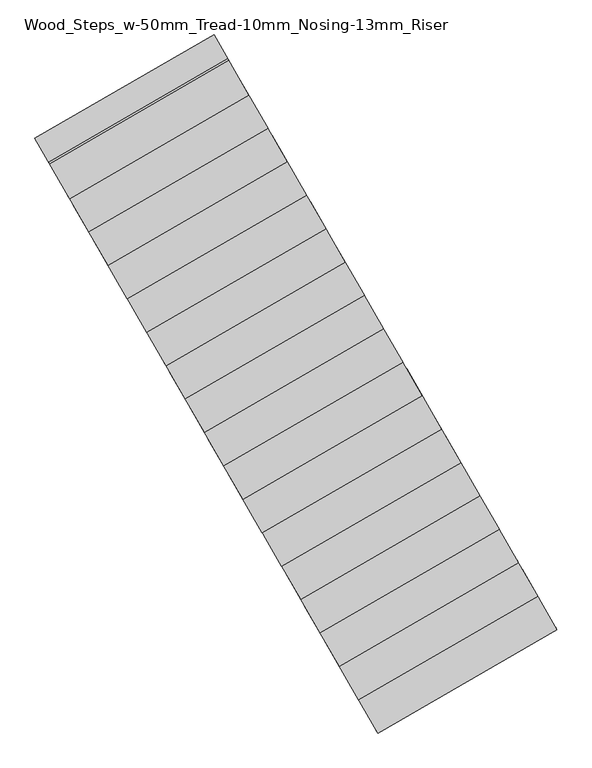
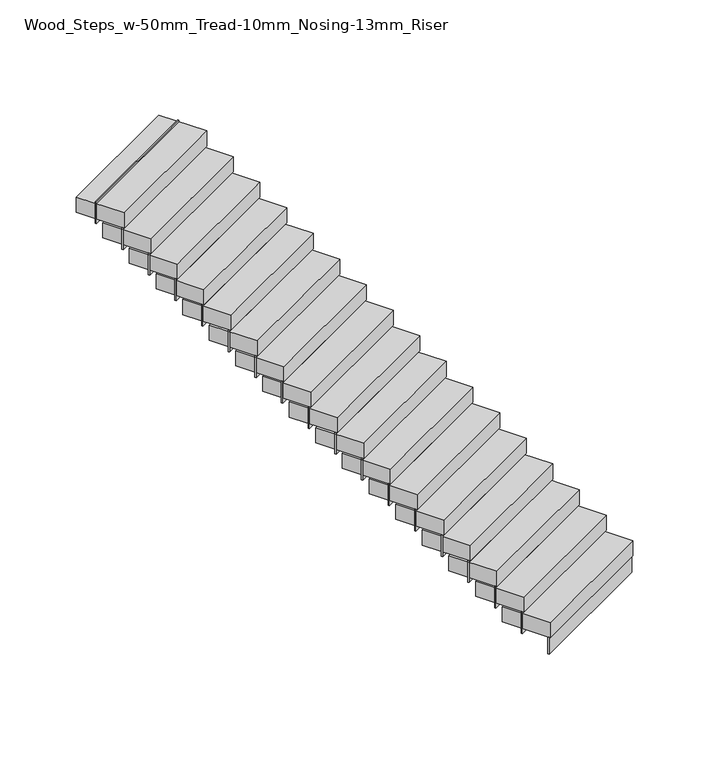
"""IFC4 building model written with IfcOpenShell, lengths in millimetres: stair flight geometry, Wood_Steps_w-50mm_Tread-10mm_Nosing-13mm_Riser."""

from ifc_helpers import new_model, si_unit, frame, origin, place, context, project, spatial, polyline, outline, extrude, source, transform, mapped, element, save


def wood_steps_w_50mm_tread_10mm_nosing_13mm_riser_c3aca261(model_context):
    return source(origin(), model_context, "Body", "SweptSolid", [
        extrude(outline(polyline([(5067.8823551, 16358.0948078), (5074.1323551, 16347.2694902), (3912.1324618, 15676.388539), (3905.8824618, 15687.2138566), (5067.8823551, 16358.0948078)])), frame((0.0, 0.0, -3000.0), z_axis=(0.0, 0.0, 1.0), x_axis=(1.0, 0.0, 0.0)), (0.0, 0.0, 1.0), 166.6666667),
        extrude(outline(polyline([(4942.8823551, 16574.6011587), (4949.1323551, 16563.7758412), (3787.1324618, 15892.89489), (3780.8824618, 15903.7202075), (4942.8823551, 16574.6011587)])), frame((0.0, 0.0, -2883.3333333), z_axis=(0.0, 0.0, 1.0), x_axis=(1.0, 0.0, 0.0)), (0.0, 0.0, 1.0), 216.6666667),
        extrude(outline(polyline([(4817.8823551, 16791.1075097), (4824.1323551, 16780.2821921), (3662.1324618, 16109.4012409), (3655.8824618, 16120.2265585), (4817.8823551, 16791.1075097)])), frame((0.0, 0.0, -2716.6666667), z_axis=(0.0, 0.0, 1.0), x_axis=(1.0, 0.0, 0.0)), (0.0, 0.0, 1.0), 216.6666667),
        extrude(outline(polyline([(4692.8823551, 17007.6138606), (4699.1323551, 16996.7885431), (3537.1324618, 16325.9075919), (3530.8824618, 16336.7329094), (4692.8823551, 17007.6138606)])), frame((0.0, 0.0, -2550.0), z_axis=(0.0, 0.0, 1.0), x_axis=(1.0, 0.0, 0.0)), (0.0, 0.0, 1.0), 216.6666667),
        extrude(outline(polyline([(4567.8823551, 17224.1202115), (4574.1323551, 17213.294894), (3412.1324618, 16542.4139428), (3405.8824618, 16553.2392604), (4567.8823551, 17224.1202115)])), frame((0.0, 0.0, -2383.3333333), z_axis=(0.0, 0.0, 1.0), x_axis=(1.0, 0.0, 0.0)), (0.0, 0.0, 1.0), 216.6666667),
        extrude(outline(polyline([(4442.8823551, 17440.6265625), (4449.1323551, 17429.8012449), (3287.1324618, 16758.9202938), (3280.8824618, 16769.7456113), (4442.8823551, 17440.6265625)])), frame((0.0, 0.0, -2216.6666667), z_axis=(0.0, 0.0, 1.0), x_axis=(1.0, 0.0, 0.0)), (0.0, 0.0, 1.0), 216.6666667),
        extrude(outline(polyline([(4317.8823551, 17657.1329134), (4324.1323551, 17646.3075959), (3162.1324618, 16975.4266447), (3155.8824618, 16986.2519623), (4317.8823551, 17657.1329134)])), frame((0.0, 0.0, -2050.0), z_axis=(0.0, 0.0, 1.0), x_axis=(1.0, 0.0, 0.0)), (0.0, 0.0, 1.0), 216.6666667),
        extrude(outline(polyline([(4192.8823551, 17873.6392644), (4199.1323551, 17862.8139468), (3037.1324618, 17191.9329957), (3030.8824618, 17202.7583132), (4192.8823551, 17873.6392644)])), frame((0.0, 0.0, -1883.3333333), z_axis=(0.0, 0.0, 1.0), x_axis=(1.0, 0.0, 0.0)), (0.0, 0.0, 1.0), 216.6666667),
        extrude(outline(polyline([(4067.8823551, 18090.1456153), (4074.1323551, 18079.3202978), (2912.1324618, 17408.4393466), (2905.8824618, 17419.2646642), (4067.8823551, 18090.1456153)])), frame((0.0, 0.0, -1716.6666667), z_axis=(0.0, 0.0, 1.0), x_axis=(1.0, 0.0, 0.0)), (0.0, 0.0, 1.0), 216.6666667),
        extrude(outline(polyline([(3942.8823551, 18306.6519663), (3949.1323551, 18295.8266487), (2787.1324618, 17624.9456976), (2780.8824618, 17635.7710151), (3942.8823551, 18306.6519663)])), frame((0.0, 0.0, -1550.0), z_axis=(0.0, 0.0, 1.0), x_axis=(1.0, 0.0, 0.0)), (0.0, 0.0, 1.0), 216.6666667),
        extrude(outline(polyline([(3817.8823551, 18523.1583172), (3824.1323551, 18512.3329997), (2662.1324618, 17841.4520485), (2655.8824618, 17852.2773661), (3817.8823551, 18523.1583172)])), frame((0.0, 0.0, -1383.3333333), z_axis=(0.0, 0.0, 1.0), x_axis=(1.0, 0.0, 0.0)), (0.0, 0.0, 1.0), 216.6666667),
        extrude(outline(polyline([(3692.8823551, 18739.6646682), (3699.1323551, 18728.8393506), (2537.1324618, 18057.9583995), (2530.8824618, 18068.783717), (3692.8823551, 18739.6646682)])), frame((0.0, 0.0, -1216.6666667), z_axis=(0.0, 0.0, 1.0), x_axis=(1.0, 0.0, 0.0)), (0.0, 0.0, 1.0), 216.6666667),
        extrude(outline(polyline([(3567.8823551, 18956.1710191), (3574.1323551, 18945.3457016), (2412.1324618, 18274.4647504), (2405.8824618, 18285.290068), (3567.8823551, 18956.1710191)])), frame((0.0, 0.0, -1050.0), z_axis=(0.0, 0.0, 1.0), x_axis=(1.0, 0.0, 0.0)), (0.0, 0.0, 1.0), 216.6666667),
        extrude(outline(polyline([(3442.8823551, 19172.6773701), (3449.1323551, 19161.8520525), (2287.1324618, 18490.9711013), (2280.8824618, 18501.7964189), (3442.8823551, 19172.6773701)])), frame((0.0, 0.0, -883.3333333), z_axis=(0.0, 0.0, 1.0), x_axis=(1.0, 0.0, 0.0)), (0.0, 0.0, 1.0), 216.6666667),
        extrude(outline(polyline([(3317.8823551, 19389.183721), (3324.1323551, 19378.3584035), (2162.1324618, 18707.4774523), (2155.8824618, 18718.3027698), (3317.8823551, 19389.183721)])), frame((0.0, 0.0, -716.6666667), z_axis=(0.0, 0.0, 1.0), x_axis=(1.0, 0.0, 0.0)), (0.0, 0.0, 1.0), 216.6666667),
        extrude(outline(polyline([(3192.8823551, 19605.690072), (3199.1323551, 19594.8647544), (2037.1324618, 18923.9838032), (2030.8824618, 18934.8091208), (3192.8823551, 19605.690072)])), frame((0.0, 0.0, -550.0), z_axis=(0.0, 0.0, 1.0), x_axis=(1.0, 0.0, 0.0)), (0.0, 0.0, 1.0), 216.6666667),
        extrude(outline(polyline([(3067.8823551, 19822.1964229), (3074.1323551, 19811.3711054), (1912.1324618, 19140.4901542), (1905.8824618, 19151.3154717), (3067.8823551, 19822.1964229)])), frame((0.0, 0.0, -383.3333333), z_axis=(0.0, 0.0, 1.0), x_axis=(1.0, 0.0, 0.0)), (0.0, 0.0, 1.0), 216.6666667),
        extrude(outline(polyline([(2942.8823551, 20038.7027738), (2949.1323551, 20027.8774563), (1787.1324618, 19356.9965051), (1780.8824618, 19367.8218227), (2942.8823551, 20038.7027738)])), frame((0.0, 0.0, -216.6666667), z_axis=(0.0, 0.0, 1.0), x_axis=(1.0, 0.0, 0.0)), (0.0, 0.0, 1.0), 216.6666667),
        extrude(outline(polyline([(4854.1323551, 16728.3206679), (5079.1323551, 16338.6092362), (3917.1324618, 15667.728285), (3692.1324618, 16057.4397167), (4854.1323551, 16728.3206679)])), frame((0.0, 0.0, -2833.3333333), z_axis=(0.0, 0.0, 1.0), x_axis=(1.0, 0.0, 0.0)), (0.0, 0.0, 1.0), 150.0),
        extrude(outline(polyline([(4729.1323551, 16944.8270188), (4954.1323551, 16555.1155871), (3792.1324618, 15884.234636), (3567.1324618, 16273.9460677), (4729.1323551, 16944.8270188)])), frame((0.0, 0.0, -2666.6666667), z_axis=(0.0, 0.0, 1.0), x_axis=(1.0, 0.0, 0.0)), (0.0, 0.0, 1.0), 150.0),
        extrude(outline(polyline([(4604.1323551, 17161.3333698), (4829.1323551, 16771.6219381), (3667.1324618, 16100.7409869), (3442.1324618, 16490.4524186), (4604.1323551, 17161.3333698)])), frame((0.0, 0.0, -2500.0), z_axis=(0.0, 0.0, 1.0), x_axis=(1.0, 0.0, 0.0)), (0.0, 0.0, 1.0), 150.0),
        extrude(outline(polyline([(4479.1323551, 17377.8397207), (4704.1323551, 16988.128289), (3542.1324618, 16317.2473379), (3317.1324618, 16706.9587696), (4479.1323551, 17377.8397207)])), frame((0.0, 0.0, -2333.3333333), z_axis=(0.0, 0.0, 1.0), x_axis=(1.0, 0.0, 0.0)), (0.0, 0.0, 1.0), 150.0),
        extrude(outline(polyline([(4354.1323551, 17594.3460717), (4579.1323551, 17204.63464), (3417.1324618, 16533.7536888), (3192.1324618, 16923.4651205), (4354.1323551, 17594.3460717)])), frame((0.0, 0.0, -2166.6666667), z_axis=(0.0, 0.0, 1.0), x_axis=(1.0, 0.0, 0.0)), (0.0, 0.0, 1.0), 150.0),
        extrude(outline(polyline([(4229.1323551, 17810.8524226), (4454.1323551, 17421.1409909), (3292.1324618, 16750.2600397), (3067.1324618, 17139.9714714), (4229.1323551, 17810.8524226)])), frame((0.0, 0.0, -2000.0), z_axis=(0.0, 0.0, 1.0), x_axis=(1.0, 0.0, 0.0)), (0.0, 0.0, 1.0), 150.0),
        extrude(outline(polyline([(4104.1323551, 18027.3587736), (4329.1323551, 17637.6473419), (3167.1324618, 16966.7663907), (2942.1324618, 17356.4778224), (4104.1323551, 18027.3587736)])), frame((0.0, 0.0, -1833.3333333), z_axis=(0.0, 0.0, 1.0), x_axis=(1.0, 0.0, 0.0)), (0.0, 0.0, 1.0), 150.0),
        extrude(outline(polyline([(3979.1323551, 18243.8651245), (4204.1323551, 17854.1536928), (3042.1324618, 17183.2727416), (2817.1324618, 17572.9841733), (3979.1323551, 18243.8651245)])), frame((0.0, 0.0, -1666.6666667), z_axis=(0.0, 0.0, 1.0), x_axis=(1.0, 0.0, 0.0)), (0.0, 0.0, 1.0), 150.0),
        extrude(outline(polyline([(3854.1323551, 18460.3714754), (4079.1323551, 18070.6600437), (2917.1324618, 17399.7790926), (2692.1324618, 17789.4905243), (3854.1323551, 18460.3714754)])), frame((0.0, 0.0, -1500.0), z_axis=(0.0, 0.0, 1.0), x_axis=(1.0, 0.0, 0.0)), (0.0, 0.0, 1.0), 150.0),
        extrude(outline(polyline([(3729.1323551, 18676.8778264), (3954.1323551, 18287.1663947), (2792.1324618, 17616.2854435), (2567.1324618, 18005.9968752), (3729.1323551, 18676.8778264)])), frame((0.0, 0.0, -1333.3333333), z_axis=(0.0, 0.0, 1.0), x_axis=(1.0, 0.0, 0.0)), (0.0, 0.0, 1.0), 150.0),
        extrude(outline(polyline([(3604.1323551, 18893.3841773), (3829.1323551, 18503.6727456), (2667.1324618, 17832.7917945), (2442.1324618, 18222.5032262), (3604.1323551, 18893.3841773)])), frame((0.0, 0.0, -1166.6666667), z_axis=(0.0, 0.0, 1.0), x_axis=(1.0, 0.0, 0.0)), (0.0, 0.0, 1.0), 150.0),
        extrude(outline(polyline([(3479.1323551, 19109.8905283), (3704.1323551, 18720.1790966), (2542.1324618, 18049.2981454), (2317.1324618, 18439.0095771), (3479.1323551, 19109.8905283)])), frame((0.0, 0.0, -1000.0), z_axis=(0.0, 0.0, 1.0), x_axis=(1.0, 0.0, 0.0)), (0.0, 0.0, 1.0), 150.0),
        extrude(outline(polyline([(3354.1323551, 19326.3968792), (3579.1323551, 18936.6854475), (2417.1324618, 18265.8044964), (2192.1324618, 18655.5159281), (3354.1323551, 19326.3968792)])), frame((0.0, 0.0, -833.3333333), z_axis=(0.0, 0.0, 1.0), x_axis=(1.0, 0.0, 0.0)), (0.0, 0.0, 1.0), 150.0),
        extrude(outline(polyline([(3229.1323551, 19542.9032302), (3454.1323551, 19153.1917985), (2292.1324618, 18482.3108473), (2067.1324618, 18872.022279), (3229.1323551, 19542.9032302)])), frame((0.0, 0.0, -666.6666667), z_axis=(0.0, 0.0, 1.0), x_axis=(1.0, 0.0, 0.0)), (0.0, 0.0, 1.0), 150.0),
        extrude(outline(polyline([(3104.1323551, 19759.4095811), (3329.1323551, 19369.6981494), (2167.1324618, 18698.8171983), (1942.1324618, 19088.52863), (3104.1323551, 19759.4095811)])), frame((0.0, 0.0, -500.0), z_axis=(0.0, 0.0, 1.0), x_axis=(1.0, 0.0, 0.0)), (0.0, 0.0, 1.0), 150.0),
        extrude(outline(polyline([(2979.1323551, 19975.9159321), (3204.1323551, 19586.2045004), (2042.1324618, 18915.3235492), (1817.1324618, 19305.0349809), (2979.1323551, 19975.9159321)])), frame((0.0, 0.0, -333.3333333), z_axis=(0.0, 0.0, 1.0), x_axis=(1.0, 0.0, 0.0)), (0.0, 0.0, 1.0), 150.0),
        extrude(outline(polyline([(2854.1323551, 20192.422283), (3079.1323551, 19802.7108513), (1917.1324618, 19131.8299001), (1692.1324618, 19521.5413319), (2854.1323551, 20192.422283)])), frame((0.0, 0.0, -166.6666667), z_axis=(0.0, 0.0, 1.0), x_axis=(1.0, 0.0, 0.0)), (0.0, 0.0, 1.0), 150.0),
    ])


if __name__ == "__main__":
    model = new_model("IFC4")
    model_context = context("Model", 3, world=origin())
    ifc_project = project(units=[si_unit("LENGTHUNIT", "METRE", prefix="MILLI")], contexts=[model_context])
    site = spatial("IfcSite", under=ifc_project)
    building = spatial("IfcBuilding", under=site)
    placement = place(None, origin())
    wood_steps_w_50mm_tread_10mm_nosing_13mm_riser_shape = wood_steps_w_50mm_tread_10mm_nosing_13mm_riser_c3aca261(model_context)
    element("IfcStairFlight", 1, ObjectType="Wood_Steps_w-50mm_Tread-10mm_Nosing-13mm_Riser", at=placement, inside=building, context=model_context, shape_type="MappedRepresentation", body=[
        mapped(wood_steps_w_50mm_tread_10mm_nosing_13mm_riser_shape, transform((0.0, 0.0, 0.0), x_axis=(1.0, 0.0, 0.0), y_axis=(0.0, 1.0, 0.0), z_axis=(0.0, 0.0, 1.0))),
    ])
    save(model, "model.ifc")
